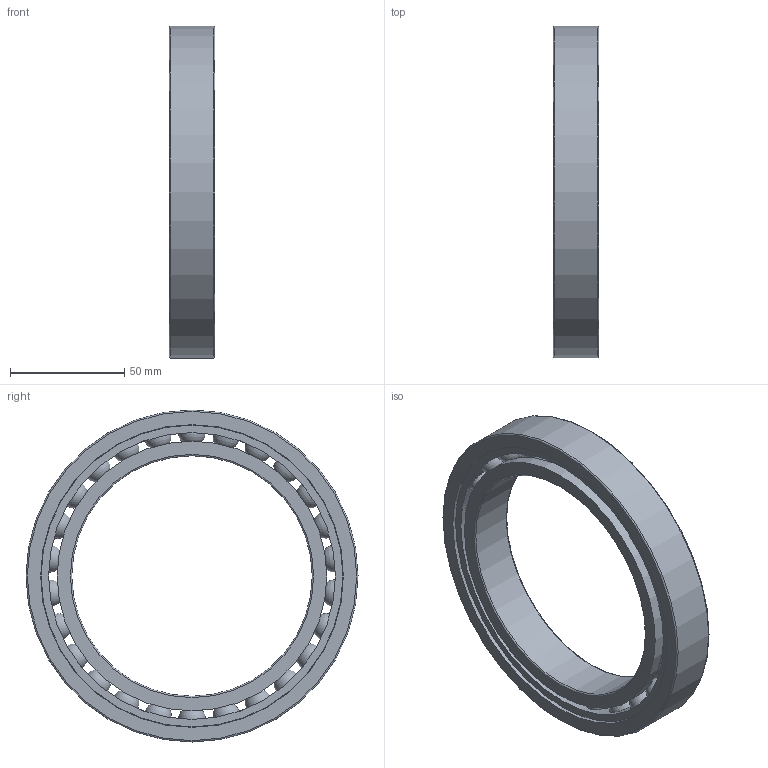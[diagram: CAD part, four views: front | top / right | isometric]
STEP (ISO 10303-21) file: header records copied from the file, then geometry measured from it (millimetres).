
FILE_DESCRIPTION(/* description */ (''),/* implementation_level */ '2;1');
FILE_NAME(/* name */ 'S_61921_TA.step',/* time_stamp */ '2013-03-06T14:48:54+01:00',/* author */ ('Marian'),/* organization */ ('GMN'),/* preprocessor_version */ 'ST-DEVELOPER v11',/* originating_system */ 'SIEMENS UGS NX 6.0',/* authorisation */ '');
FILE_SCHEMA (('CONFIG_CONTROL_DESIGN'));
Length unit declared in the file: millimetre
Products named in the file (1): S_61921_TA
Bounding box: 20 x 145 x 145 mm (x, y, z)
Volume: 116926.2 mm3; surface area: 66208.4 mm2
Topology: 29 solids, 29 shells, 72 faces, 194 edges, 126 vertices
Faces by surface type: cylinder 33, sphere 26, torus 6, plane 6, cone 1
Full cylindrical faces by diameter (mm): 12.106 x26, 105 x1, 117.8 x2, 125.246 x1, 131.8 x1, 132.2 x1, 145 x1
Entity records: 2422 total; most frequent: CARTESIAN_POINT 1127, DIRECTION 186, FACE_BOUND 170, EDGE_LOOP 144, ORIENTED_EDGE 144, VERTEX_POINT 98, AXIS2_PLACEMENT_3D 93, EDGE_CURVE 72
